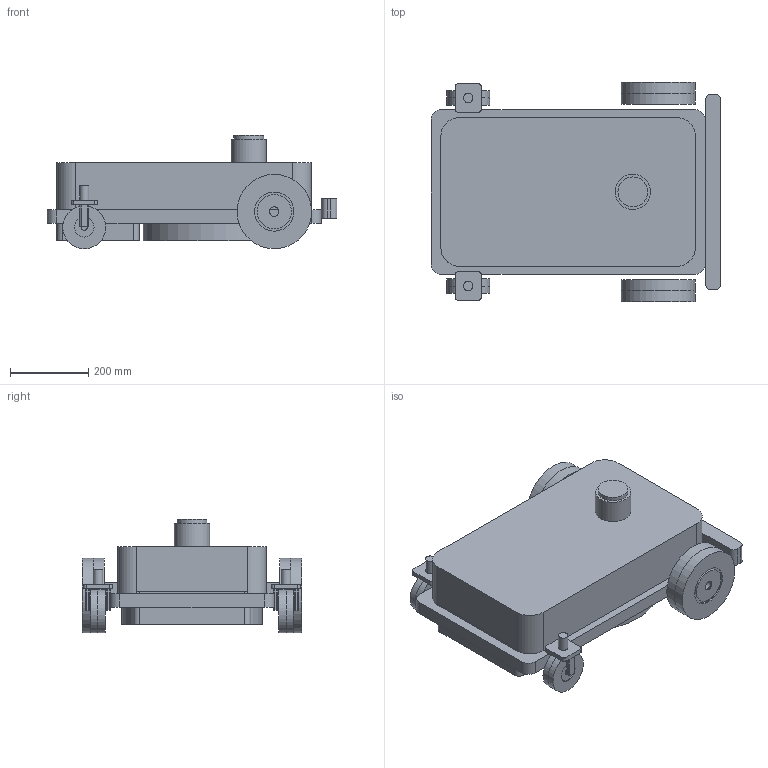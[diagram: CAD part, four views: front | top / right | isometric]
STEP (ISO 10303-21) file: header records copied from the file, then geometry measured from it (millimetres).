
FILE_DESCRIPTION(('Open CASCADE Model'),'2;1');
FILE_NAME('Open CASCADE Shape Model','2026-09-19T16:36:15',('Author'),( 'Open CASCADE'),'Open CASCADE STEP processor 7.8','Open CASCADE 7.8' ,'Unknown');
FILE_SCHEMA(('AUTOMOTIVE_DESIGN { 1 0 10303 214 1 1 1 1 }'));
Length unit declared in the file: millimetre
Products named in the file (21): Open CASCADE STEP translator 7.8 2; Open CASCADE STEP translator 7.8 2.1; Open CASCADE STEP translator 7.8 2.2; Open CASCADE STEP translator 7.8 2.3; Open CASCADE STEP translator 7.8 2.5; Open CASCADE STEP translator 7.8 2.7; Open CASCADE STEP translator 7.8 2.9; Open CASCADE STEP translator 7.8 2.11; Open CASCADE STEP translator 7.8 2.12; Open CASCADE STEP translator 7.8 2.13; Open CASCADE STEP translator 7.8 2.14; Open CASCADE STEP translator 7.8 2.15; Open CASCADE STEP translator 7.8 2.16; Open CASCADE STEP translator 7.8 2.17; Open CASCADE STEP translator 7.8 2.18; Open CASCADE STEP translator 7.8 2.19; Open CASCADE STEP translator 7.8 2.20; Open CASCADE STEP translator 7.8 2.21; Open CASCADE STEP translator 7.8 2.22; Open CASCADE STEP translator 7.8 2.23; Open CASCADE STEP translator 7.8 2.24
Assembly tree (24 placements, depth 2):
  Open CASCADE STEP translator 7.8 2
    Open CASCADE STEP translator 7.8 2.1
    Open CASCADE STEP translator 7.8 2.2
    Open CASCADE STEP translator 7.8 2.3  x2
    Open CASCADE STEP translator 7.8 2.5  x2
    Open CASCADE STEP translator 7.8 2.7  x2
    Open CASCADE STEP translator 7.8 2.9  x2
    Open CASCADE STEP translator 7.8 2.11
    Open CASCADE STEP translator 7.8 2.12
    Open CASCADE STEP translator 7.8 2.13
    Open CASCADE STEP translator 7.8 2.14
    Open CASCADE STEP translator 7.8 2.15
    Open CASCADE STEP translator 7.8 2.16
    Open CASCADE STEP translator 7.8 2.17
    Open CASCADE STEP translator 7.8 2.18
    Open CASCADE STEP translator 7.8 2.19
    Open CASCADE STEP translator 7.8 2.20
    Open CASCADE STEP translator 7.8 2.21
    Open CASCADE STEP translator 7.8 2.22
    Open CASCADE STEP translator 7.8 2.23
    Open CASCADE STEP translator 7.8 2.24
Bounding box: 740 x 560 x 290 mm (x, y, z)
Volume: 48909183 mm3; surface area: 2463982.3 mm2
Topology: 24 solids, 24 shells, 247 faces, 534 edges, 352 vertices
Faces by surface type: plane 135, cylinder 112
Full cylindrical faces by diameter (mm): 16 x5, 24 x13, 36 x1, 50 x5, 76 x2, 88 x4, 90 x1, 100 x4, 110 x5, 190 x4, 320 x1, 360 x1
Entity records: 11207 total; most frequent: CARTESIAN_POINT 2111, DIRECTION 1750, LINE 899, VECTOR 899, ORIENTED_EDGE 834, PCURVE 834, DEFINITIONAL_REPRESENTATION 834, EDGE_CURVE 417
